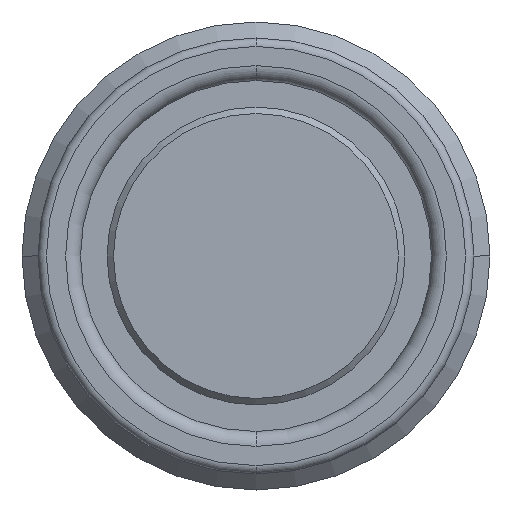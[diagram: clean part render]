
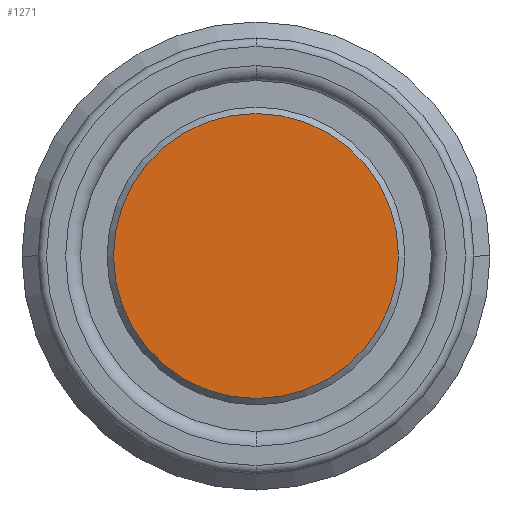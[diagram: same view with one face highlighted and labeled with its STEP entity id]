
A CAD part, front view. The second image highlights one B-rep face of the part: STEP entity #1271.
In plain terms, the highlighted planar face has unit normal (0, -1, 0).
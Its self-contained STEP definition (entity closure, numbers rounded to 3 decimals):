
#890=PLANE('',#3186);
#1271=ADVANCED_FACE('',(#1437),#890,.T.);
#1437=FACE_OUTER_BOUND('',#1587,.T.);
#1587=EDGE_LOOP('',(#2199));
#2199=ORIENTED_EDGE('',*,*,#2694,.T.);
#2388=VERTEX_POINT('',#4957);
#2694=EDGE_CURVE('',#2388,#2388,#2871,.T.);
#2871=CIRCLE('',#3185,6.7);
#3185=AXIS2_PLACEMENT_3D('',#4956,#3907,#3908);
#3186=AXIS2_PLACEMENT_3D('',#4958,#3909,#3910);
#3907=DIRECTION('',(0.,-1.,0.));
#3908=DIRECTION('',(0.,0.,-1.));
#3909=DIRECTION('',(0.,-1.,0.));
#3910=DIRECTION('',(0.,0.,1.));
#4956=CARTESIAN_POINT('',(0.,17.2,0.));
#4957=CARTESIAN_POINT('',(0.,17.2,-6.7));
#4958=CARTESIAN_POINT('',(0.,17.2,0.));
